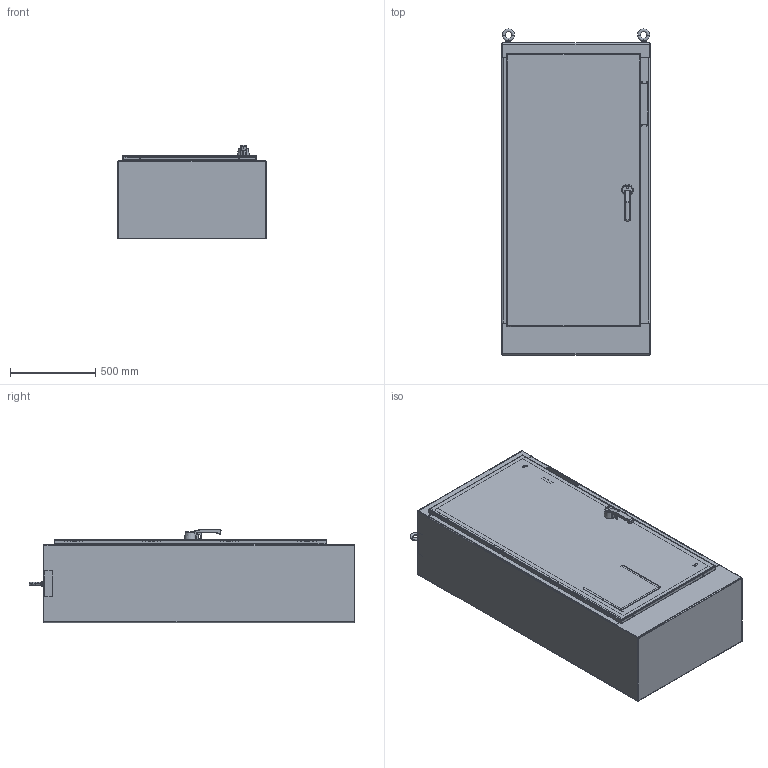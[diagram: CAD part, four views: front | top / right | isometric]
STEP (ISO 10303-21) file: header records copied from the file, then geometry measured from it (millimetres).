
FILE_DESCRIPTION (( 'STEP AP203' ), '1' );
FILE_NAME ('a72xm3418ftclp.STEP', '2012-08-29T17:52:27', ( 'User' ), ( 'Pentair Inc' ), 'SwSTEP 2.0', 'SolidWorks 2010', '' );
FILE_SCHEMA (( 'CONFIG_CONTROL_DESIGN' ));
Products named in the file (64): a72xm3418ftclp; 89086032; 89086049; 89086096; 89086112; 89086066; 89086081; 22112001_AFTER WELD; 27104001; 89086128; 89086138; 89086148; 89086158; 11258883_11258883; 89085500; 26108002; 87932883; 99415273_Hex Nut; 89086199; 89086189; 89086184; 99404177_Config-Drawing; 24110001; 26173001; 99401225_Config-Drawing; 87790201_87790201; 60127135_Installed postion; 60127199_60127199; 89085847; 89085464_60127101; 23418001; 22318001; 89086634; 87956539; 87922656; 26274015_26274015; 26273015_26273015; 27115001; 26118002_26118002; 27439101_27439101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
Assembly tree (103 placements, depth 5):
  a72xm3418ftclp
    87790199  x4
    11158216
    89085489  x4
      87790201_87790201
      60127199_60127199
      89085847
      60127135_Installed postion
    89086032
      89085500  x2
      89086148
        11258883_11258883
        89086158
      89086049
        22112001_AFTER WELD  x6
        89086096
          89086112
        27104001  x2
        89086066
          89086081
          99404177_Config-Drawing  x2
      87932883  x2
      26108002  x2
      89086128
        89086138
        99404177_Config-Drawing
      99415273_Hex Nut  x2
    89086199
      87956539  x2
      99401300_99401300  x2
      87922656  x2
      89086634
      26118002_26118002  x2
      22101014
      22318001  x2
      27439101_27439101
      35131001_35131001
      89087372_35124003
      26274015_26274015  x2
        30101003
        26273015_26273015
        22318002
        27115001
      87544899
      23418001
      35130001_SI-HHMS 0.25-28x0.375x0.375-N  x2
      89086189
        99401225_Config-Drawing  x2
        89085464_60127101  x4
        26173001
        24110001  x2
        89086184
        99404177_Config-Drawing
    11358034
      26151006
      99401525_.25"  x3
      22318002
      30176001_EXTENDED .81
      30101003
      22101001  x3
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Bounding box: 869.95 x 1914.78 x 551.87 mm (x, y, z)
Volume: 19826106.7 mm3; surface area: 12990737.3 mm2
Topology: 109 solids, 112 shells, 5535 faces, 13413 edges, 8155 vertices
Faces by surface type: plane 2542, cylinder 1593, bspline 521, cone 438, torus 374, sphere 67
Entity records: 122235 total; most frequent: CARTESIAN_POINT 45963, ORIENTED_EDGE 14614, DIRECTION 13433, EDGE_CURVE 7308, AXIS2_PLACEMENT_3D 4612, VERTEX_POINT 4550, LINE 4209, VECTOR 4209
